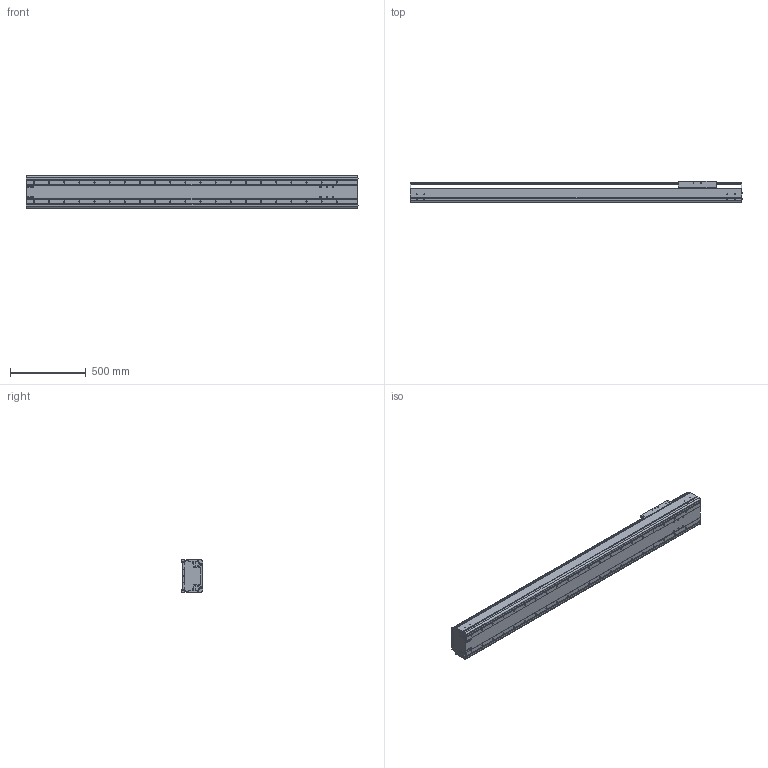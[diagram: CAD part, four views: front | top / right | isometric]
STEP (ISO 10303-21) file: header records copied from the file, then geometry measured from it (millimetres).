
FILE_DESCRIPTION((''),'2;1');
FILE_NAME('BE60J-ST-M_N-H0_IGS_PRT','2017-06-18T',(' '),(''),'PRO/ENGINEER BY PARAMETRIC TECHNOLOGY CORPORATION, 2015030','PRO/ENGINEER BY PARAMETRIC TECHNOLOGY CORPORATION, 2015030','');
FILE_SCHEMA(('CONFIG_CONTROL_DESIGN'));
Length unit declared in the file: millimetre
Products named in the file (1): BE60J-ST-M_N-H0_IGS_PRT
Bounding box: 2192.4 x 140 x 214 mm (x, y, z)
Volume: 16458491.3 mm3; surface area: 4513513.1 mm2
Topology: 2 solids, 138 shells, 1599 faces, 4546 edges, 3054 vertices
Faces by surface type: cylinder 862, plane 637, cone 52, sphere 24, torus 24
Entity records: 54636 total; most frequent: CARTESIAN_POINT 12565, DIRECTION 8710, ORIENTED_EDGE 8460, EDGE_CURVE 4498, AXIS2_PLACEMENT_3D 3272, VERTEX_POINT 3054, VECTOR 2166, LINE 2166
